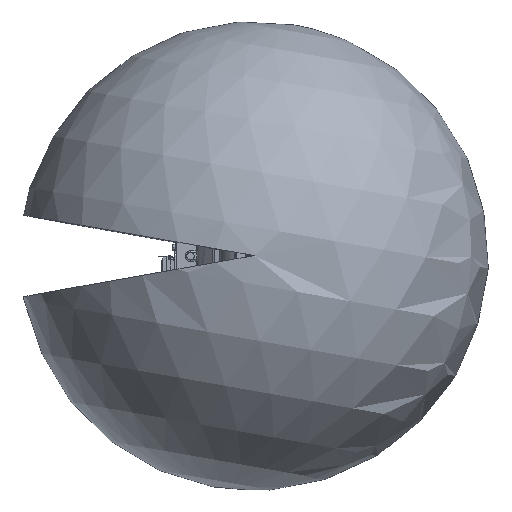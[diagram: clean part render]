
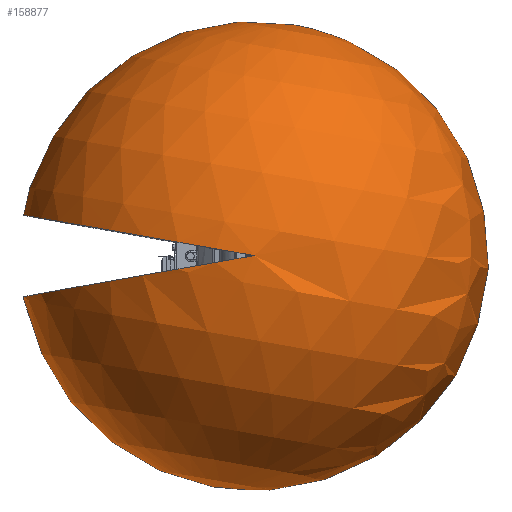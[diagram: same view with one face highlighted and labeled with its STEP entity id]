
A CAD part, top view. The second image highlights one B-rep face of the part: STEP entity #158877.
In plain terms, the highlighted spherical face has radius 661.91 mm.
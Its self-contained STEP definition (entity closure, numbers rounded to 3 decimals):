
#3894 = DIRECTION ( 'NONE',  ( 0., -1., 0. ) ) ;
#12161 = VERTEX_POINT ( 'NONE', #146467 ) ;
#14079 = VERTEX_POINT ( 'NONE', #207925 ) ;
#14864 = EDGE_CURVE ( 'NONE', #167366, #14079, #102148, .T. ) ;
#17563 = AXIS2_PLACEMENT_3D ( 'NONE', #148638, #3894, #165512 ) ;
#19509 = AXIS2_PLACEMENT_3D ( 'NONE', #69747, #134288, #49748 ) ;
#31126 = VERTEX_POINT ( 'NONE', #118423 ) ;
#34445 = CIRCLE ( 'NONE', #17563, 468.041 ) ;
#40508 = DIRECTION ( 'NONE',  ( -0.985, 0., -0.174 ) ) ;
#41308 = CARTESIAN_POINT ( 'NONE',  ( 0., -468.041, 0. ) ) ;
#43992 = CARTESIAN_POINT ( 'NONE',  ( 0., 0., 0. ) ) ;
#44152 = AXIS2_PLACEMENT_3D ( 'NONE', #41308, #170224, #155391 ) ;
#46543 = CIRCLE ( 'NONE', #19509, 468.041 ) ;
#49484 = EDGE_LOOP ( 'NONE', ( #148187, #204910, #116504, #120868, #171423 ) ) ;
#49748 = DIRECTION ( 'NONE',  ( 0., 0., -1. ) ) ;
#57380 = CARTESIAN_POINT ( 'NONE',  ( 0., 0., 0. ) ) ;
#69747 = CARTESIAN_POINT ( 'NONE',  ( 0., -468.041, 0. ) ) ;
#70128 = CARTESIAN_POINT ( 'NONE',  ( -460.93, -468.041, -81.274 ) ) ;
#73245 = SPHERICAL_SURFACE ( 'NONE', #168963, 661.91 ) ;
#102148 = CIRCLE ( 'NONE', #118897, 661.91 ) ;
#103941 = DIRECTION ( 'NONE',  ( 0.174, 0., -0.985 ) ) ;
#108209 = CIRCLE ( 'NONE', #44152, 468.041 ) ;
#111665 = AXIS2_PLACEMENT_3D ( 'NONE', #175711, #208543, #124029 ) ;
#116504 = ORIENTED_EDGE ( 'NONE', *, *, #177260, .F. ) ;
#118423 = CARTESIAN_POINT ( 'NONE',  ( -460.93, -468.041, 81.274 ) ) ;
#118897 = AXIS2_PLACEMENT_3D ( 'NONE', #43992, #171819, #157019 ) ;
#119777 = FACE_OUTER_BOUND ( 'NONE', #49484, .T. ) ;
#120868 = ORIENTED_EDGE ( 'NONE', *, *, #159715, .F. ) ;
#124029 = DIRECTION ( 'NONE',  ( -0.985, 0., 0.174 ) ) ;
#134288 = DIRECTION ( 'NONE',  ( 0., -1., 0. ) ) ;
#146467 = CARTESIAN_POINT ( 'NONE',  ( 0., -468.041, 468.041 ) ) ;
#148187 = ORIENTED_EDGE ( 'NONE', *, *, #189734, .F. ) ;
#148638 = CARTESIAN_POINT ( 'NONE',  ( 0., -468.041, 0. ) ) ;
#154838 = EDGE_CURVE ( 'NONE', #12161, #31126, #108209, .T. ) ;
#155391 = DIRECTION ( 'NONE',  ( 0., 0., -1. ) ) ;
#157019 = DIRECTION ( 'NONE',  ( -0.985, 0., -0.174 ) ) ;
#158877 = ADVANCED_FACE ( 'NONE', ( #119777 ), #73245, .T. ) ;
#159715 = EDGE_CURVE ( 'NONE', #167366, #200581, #34445, .T. ) ;
#165512 = DIRECTION ( 'NONE',  ( 0., 0., -1. ) ) ;
#167366 = VERTEX_POINT ( 'NONE', #70128 ) ;
#168963 = AXIS2_PLACEMENT_3D ( 'NONE', #57380, #103941, #40508 ) ;
#170224 = DIRECTION ( 'NONE',  ( 0., -1., 0. ) ) ;
#171423 = ORIENTED_EDGE ( 'NONE', *, *, #14864, .T. ) ;
#171819 = DIRECTION ( 'NONE',  ( 0.174, 0., -0.985 ) ) ;
#172117 = CARTESIAN_POINT ( 'NONE',  ( 0., -468.041, -468.041 ) ) ;
#175711 = CARTESIAN_POINT ( 'NONE',  ( 0., 0., 0. ) ) ;
#177260 = EDGE_CURVE ( 'NONE', #200581, #12161, #46543, .T. ) ;
#189734 = EDGE_CURVE ( 'NONE', #31126, #14079, #202852, .T. ) ;
#200581 = VERTEX_POINT ( 'NONE', #172117 ) ;
#202852 = CIRCLE ( 'NONE', #111665, 661.91 ) ;
#204910 = ORIENTED_EDGE ( 'NONE', *, *, #154838, .F. ) ;
#207925 = CARTESIAN_POINT ( 'NONE',  ( 0., 661.91, 0. ) ) ;
#208543 = DIRECTION ( 'NONE',  ( -0.174, 0., -0.985 ) ) ;
